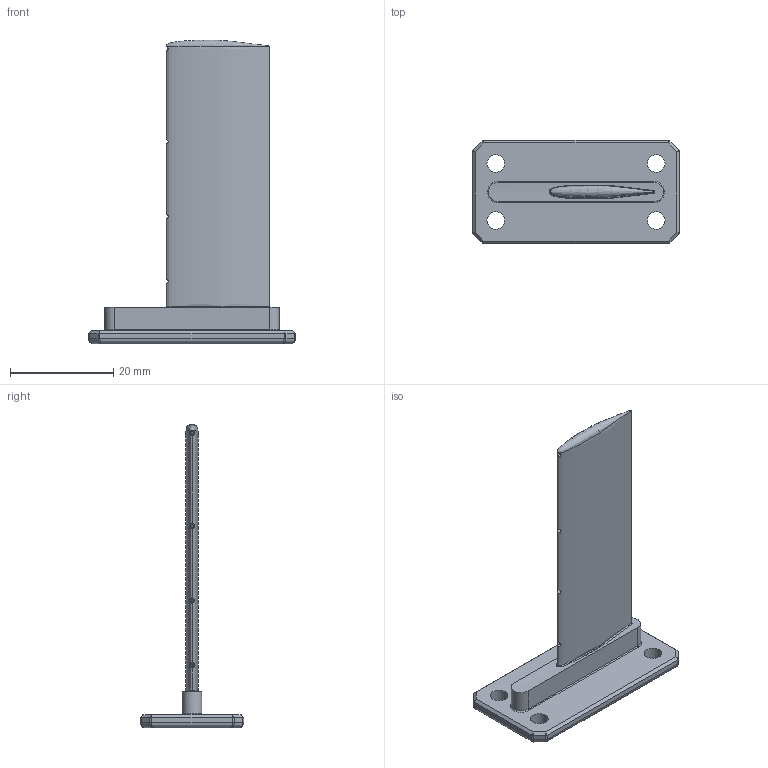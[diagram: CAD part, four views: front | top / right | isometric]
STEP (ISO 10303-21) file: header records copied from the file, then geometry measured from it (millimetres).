
FILE_DESCRIPTION(('CATIA V5 STEP Exchange','CAx-IF Rec.Pracs.--- Model Styling and Organization---1.5--- 2016-08-15','CAx-IF Rec.Pracs.---Supplemental Geometry---1.0---2011-11-01','CAx-IF Rec.Pracs.--- Composite Materials ---1.1---2010-07-15'),'2;1');
FILE_NAME('W:\8-25-003 RENOVATION DEBITMETRE PHI100 A S3\CATIA\Etude\S3MA-8-25003-1004--_PEIGNE_4_PRISES_M.stp','2026-02-06T09:00:58+00:00',('none'),('none'),'CATIA Version 5-6 Release 2020 SP6 HF13','CATIA V5 STEP AP214 v2','none');
FILE_SCHEMA(('AUTOMOTIVE_DESIGN { 1 0 10303 214 1 1 1 1 }'));
Length unit declared in the file: millimetre
Products named in the file (1): S3MA-8-25003-1004--_PEIGNE_4_PRISES_M
Bounding box: 40 x 20 x 58.7 mm (x, y, z)
Volume: 4100.3 mm3; surface area: 4566.6 mm2
Topology: 1 solids, 1 shells, 127 faces, 304 edges, 164 vertices
Faces by surface type: cylinder 61, plane 25, cone 16, bspline 11, torus 11, extrusion 2, revolution 1
Entity records: 7934 total; most frequent: CARTESIAN_POINT 5360, ORIENTED_EDGE 574, DIRECTION 400, EDGE_CURVE 287, AXIS2_PLACEMENT_3D 189, VERTEX_POINT 164, EDGE_LOOP 145, VECTOR 129
